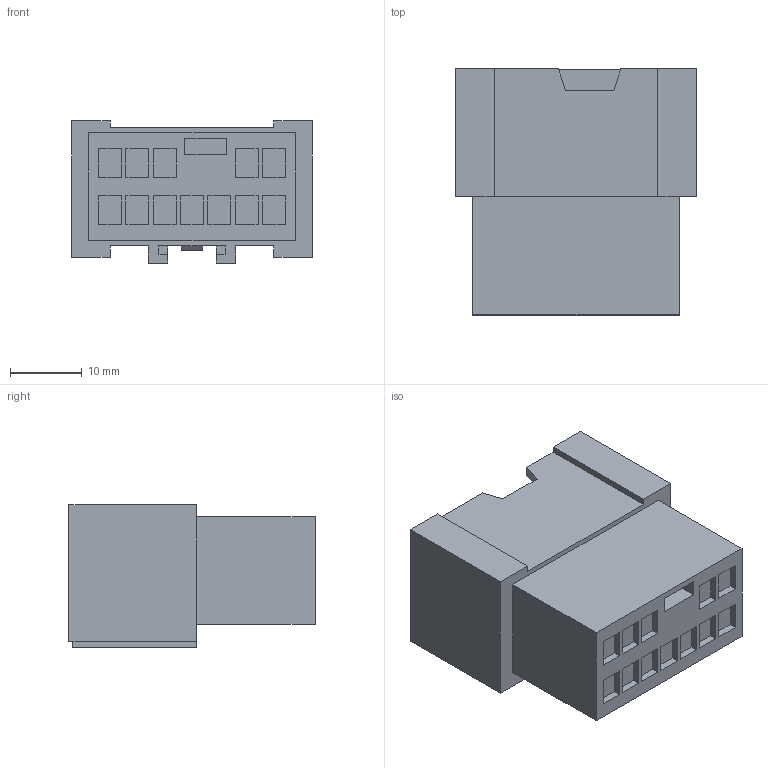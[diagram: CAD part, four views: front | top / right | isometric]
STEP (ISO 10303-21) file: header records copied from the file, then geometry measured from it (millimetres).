
FILE_DESCRIPTION(('CATIA V5 STEP','CAx-IF Rec.Pracs.--- Model Styling and Organization---1.4--- 2014-01-23'),'2;1');
FILE_NAME('\\fss02.ad.sws.co.jp\fs100016\第3設計部\共有\コネクタ第1Gr\【91】一時保管\★カタログ用参考資料\簡易３D\stp_送付用\6098-6980.stp','2024-10-07T01:33:48+00:00',('none'),('none'),'CATIA Version 5-6 Release 2018 SP4 HF21','CATIA V5 STEP AP214','none');
FILE_SCHEMA(('AUTOMOTIVE_DESIGN { 1 0 10303 214 1 1 1 1 }'));
Length unit declared in the file: millimetre
Products named in the file (1): 6098-6980
Bounding box: 33.5 x 34.25 x 19.8 mm (x, y, z)
Volume: 10693.9 mm3; surface area: 7093.1 mm2
Topology: 1 solids, 1 shells, 191 faces, 490 edges, 326 vertices
Faces by surface type: plane 191
Entity records: 5193 total; most frequent: ORIENTED_EDGE 980, CARTESIAN_POINT 908, DIRECTION 672, VECTOR 490, EDGE_CURVE 490, LINE 490, VERTEX_POINT 326, EDGE_LOOP 218
